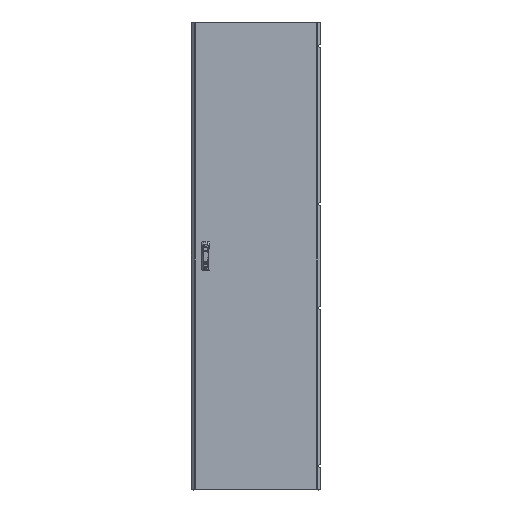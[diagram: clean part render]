
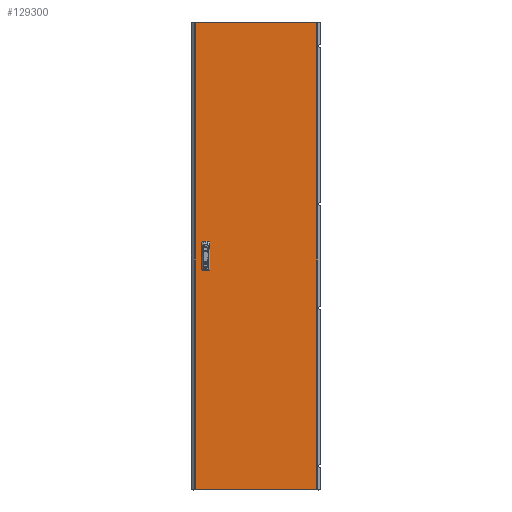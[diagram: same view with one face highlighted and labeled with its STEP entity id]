
A CAD part, top view. The second image highlights one B-rep face of the part: STEP entity #129300.
In plain terms, the highlighted planar face has unit normal (0, 0, 1).
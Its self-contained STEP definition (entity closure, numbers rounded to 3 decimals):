
#426 = VERTEX_POINT ( 'NONE', #96115 ) ;
#591 = CARTESIAN_POINT ( 'NONE',  ( -242.5, 12.5, 0. ) ) ;
#1794 = LINE ( 'NONE', #56543, #33268 ) ;
#2138 = CARTESIAN_POINT ( 'NONE',  ( -217.5, -62.5, 0. ) ) ;
#6946 = VERTEX_POINT ( 'NONE', #129134 ) ;
#12186 = VERTEX_POINT ( 'NONE', #94626 ) ;
#17309 = DIRECTION ( 'NONE',  ( 0., 1., 0. ) ) ;
#18569 = EDGE_LOOP ( 'NONE', ( #65148, #65105, #20339, #51268 ) ) ;
#19882 = VERTEX_POINT ( 'NONE', #24364 ) ;
#20249 = CARTESIAN_POINT ( 'NONE',  ( -217.5, -12.5, 0. ) ) ;
#20339 = ORIENTED_EDGE ( 'NONE', *, *, #114338, .T. ) ;
#24364 = CARTESIAN_POINT ( 'NONE',  ( -217.5, 12.5, 0. ) ) ;
#26499 = EDGE_LOOP ( 'NONE', ( #93582, #82236, #31464, #45956 ) ) ;
#27601 = VECTOR ( 'NONE', #136346, 1000. ) ;
#28057 = VERTEX_POINT ( 'NONE', #2138 ) ;
#28488 = VECTOR ( 'NONE', #30486, 1000. ) ;
#29343 = LINE ( 'NONE', #83445, #118521 ) ;
#29347 = PLANE ( 'NONE',  #59398 ) ;
#29614 = EDGE_CURVE ( 'NONE', #97712, #28057, #73737, .T. ) ;
#29940 = EDGE_CURVE ( 'NONE', #28057, #104093, #70076, .T. ) ;
#30336 = CARTESIAN_POINT ( 'NONE',  ( -242.5, -62.5, 0. ) ) ;
#30477 = DIRECTION ( 'NONE',  ( 0., -1., 0. ) ) ;
#30486 = DIRECTION ( 'NONE',  ( 1., 0., 0. ) ) ;
#31243 = EDGE_CURVE ( 'NONE', #62783, #97204, #1794, .T. ) ;
#31464 = ORIENTED_EDGE ( 'NONE', *, *, #29614, .F. ) ;
#32165 = CARTESIAN_POINT ( 'NONE',  ( -242.5, 62.5, 0. ) ) ;
#33268 = VECTOR ( 'NONE', #79286, 1000. ) ;
#42786 = EDGE_CURVE ( 'NONE', #104093, #125672, #48381, .T. ) ;
#43516 = ORIENTED_EDGE ( 'NONE', *, *, #131805, .F. ) ;
#45026 = EDGE_LOOP ( 'NONE', ( #130270, #43516, #132251, #59087 ) ) ;
#45956 = ORIENTED_EDGE ( 'NONE', *, *, #59350, .F. ) ;
#48381 = LINE ( 'NONE', #93881, #119550 ) ;
#49613 = CARTESIAN_POINT ( 'NONE',  ( -277.875, -1069.5, 0. ) ) ;
#50720 = CARTESIAN_POINT ( 'NONE',  ( 0., 0., 0. ) ) ;
#51268 = ORIENTED_EDGE ( 'NONE', *, *, #52856, .T. ) ;
#52856 = EDGE_CURVE ( 'NONE', #426, #107161, #62367, .T. ) ;
#56543 = CARTESIAN_POINT ( 'NONE',  ( -277.875, 1069.5, 0. ) ) ;
#59075 = VECTOR ( 'NONE', #63564, 1000. ) ;
#59087 = ORIENTED_EDGE ( 'NONE', *, *, #134484, .F. ) ;
#59350 = EDGE_CURVE ( 'NONE', #125672, #97712, #83535, .T. ) ;
#59398 = AXIS2_PLACEMENT_3D ( 'NONE', #50720, #84139, #127470 ) ;
#60921 = DIRECTION ( 'NONE',  ( 0., 1., 0. ) ) ;
#61475 = CARTESIAN_POINT ( 'NONE',  ( -242.5, -62.5, 0. ) ) ;
#62367 = LINE ( 'NONE', #49613, #27601 ) ;
#62783 = VERTEX_POINT ( 'NONE', #139101 ) ;
#63564 = DIRECTION ( 'NONE',  ( 0., -1., 0. ) ) ;
#65105 = ORIENTED_EDGE ( 'NONE', *, *, #31243, .T. ) ;
#65148 = ORIENTED_EDGE ( 'NONE', *, *, #102983, .T. ) ;
#70076 = LINE ( 'NONE', #114109, #135289 ) ;
#71357 = CARTESIAN_POINT ( 'NONE',  ( 277.875, -1069.5, 0. ) ) ;
#73737 = LINE ( 'NONE', #30336, #82959 ) ;
#73888 = CARTESIAN_POINT ( 'NONE',  ( -277.875, -1069.5, 0. ) ) ;
#75554 = LINE ( 'NONE', #32165, #76082 ) ;
#75809 = VECTOR ( 'NONE', #89970, 1000. ) ;
#76082 = VECTOR ( 'NONE', #88340, 1000. ) ;
#79286 = DIRECTION ( 'NONE',  ( -1., 0., 0. ) ) ;
#79977 = CARTESIAN_POINT ( 'NONE',  ( -242.5, 12.5, 0. ) ) ;
#81381 = LINE ( 'NONE', #79977, #75809 ) ;
#82236 = ORIENTED_EDGE ( 'NONE', *, *, #29940, .F. ) ;
#82740 = FACE_BOUND ( 'NONE', #45026, .T. ) ;
#82959 = VECTOR ( 'NONE', #117079, 1000. ) ;
#83445 = CARTESIAN_POINT ( 'NONE',  ( -217.5, 12.5, 0. ) ) ;
#83535 = LINE ( 'NONE', #61475, #59075 ) ;
#84139 = DIRECTION ( 'NONE',  ( 0., 0., -1. ) ) ;
#86175 = VERTEX_POINT ( 'NONE', #98784 ) ;
#87141 = VECTOR ( 'NONE', #30477, 1000. ) ;
#88340 = DIRECTION ( 'NONE',  ( -1., 0., 0. ) ) ;
#89970 = DIRECTION ( 'NONE',  ( 0., -1., 0. ) ) ;
#92126 = EDGE_CURVE ( 'NONE', #6946, #12186, #75554, .T. ) ;
#93582 = ORIENTED_EDGE ( 'NONE', *, *, #42786, .F. ) ;
#93657 = LINE ( 'NONE', #127001, #124849 ) ;
#93881 = CARTESIAN_POINT ( 'NONE',  ( -242.5, -12.5, 0. ) ) ;
#94626 = CARTESIAN_POINT ( 'NONE',  ( -242.5, 62.5, 0. ) ) ;
#96115 = CARTESIAN_POINT ( 'NONE',  ( -277.875, -1069.5, 0. ) ) ;
#97204 = VERTEX_POINT ( 'NONE', #140060 ) ;
#97712 = VERTEX_POINT ( 'NONE', #116297 ) ;
#98784 = CARTESIAN_POINT ( 'NONE',  ( -242.5, 12.5, 0. ) ) ;
#101114 = CARTESIAN_POINT ( 'NONE',  ( -242.5, -12.5, 0. ) ) ;
#102983 = EDGE_CURVE ( 'NONE', #107161, #62783, #93657, .T. ) ;
#104093 = VERTEX_POINT ( 'NONE', #20249 ) ;
#107161 = VERTEX_POINT ( 'NONE', #71357 ) ;
#108653 = LINE ( 'NONE', #591, #28488 ) ;
#113411 = DIRECTION ( 'NONE',  ( 0., 1., 0. ) ) ;
#114109 = CARTESIAN_POINT ( 'NONE',  ( -217.5, -62.5, 0. ) ) ;
#114338 = EDGE_CURVE ( 'NONE', #97204, #426, #127892, .T. ) ;
#115390 = FACE_OUTER_BOUND ( 'NONE', #18569, .T. ) ;
#116297 = CARTESIAN_POINT ( 'NONE',  ( -242.5, -62.5, 0. ) ) ;
#117079 = DIRECTION ( 'NONE',  ( 1., 0., 0. ) ) ;
#118521 = VECTOR ( 'NONE', #17309, 1000. ) ;
#119550 = VECTOR ( 'NONE', #127233, 1000. ) ;
#124849 = VECTOR ( 'NONE', #60921, 1000. ) ;
#125672 = VERTEX_POINT ( 'NONE', #101114 ) ;
#127001 = CARTESIAN_POINT ( 'NONE',  ( 277.875, -1069.5, 0. ) ) ;
#127233 = DIRECTION ( 'NONE',  ( -1., 0., 0. ) ) ;
#127470 = DIRECTION ( 'NONE',  ( -1., 0., 0. ) ) ;
#127892 = LINE ( 'NONE', #73888, #87141 ) ;
#129134 = CARTESIAN_POINT ( 'NONE',  ( -217.5, 62.5, 0. ) ) ;
#129300 = ADVANCED_FACE ( 'NONE', ( #82740, #136762, #115390 ), #29347, .F. ) ;
#130270 = ORIENTED_EDGE ( 'NONE', *, *, #92126, .F. ) ;
#131805 = EDGE_CURVE ( 'NONE', #19882, #6946, #29343, .T. ) ;
#132251 = ORIENTED_EDGE ( 'NONE', *, *, #137032, .F. ) ;
#134484 = EDGE_CURVE ( 'NONE', #12186, #86175, #81381, .T. ) ;
#135289 = VECTOR ( 'NONE', #113411, 1000. ) ;
#136346 = DIRECTION ( 'NONE',  ( 1., 0., 0. ) ) ;
#136762 = FACE_BOUND ( 'NONE', #26499, .T. ) ;
#137032 = EDGE_CURVE ( 'NONE', #86175, #19882, #108653, .T. ) ;
#139101 = CARTESIAN_POINT ( 'NONE',  ( 277.875, 1069.5, 0. ) ) ;
#140060 = CARTESIAN_POINT ( 'NONE',  ( -277.875, 1069.5, 0. ) ) ;
